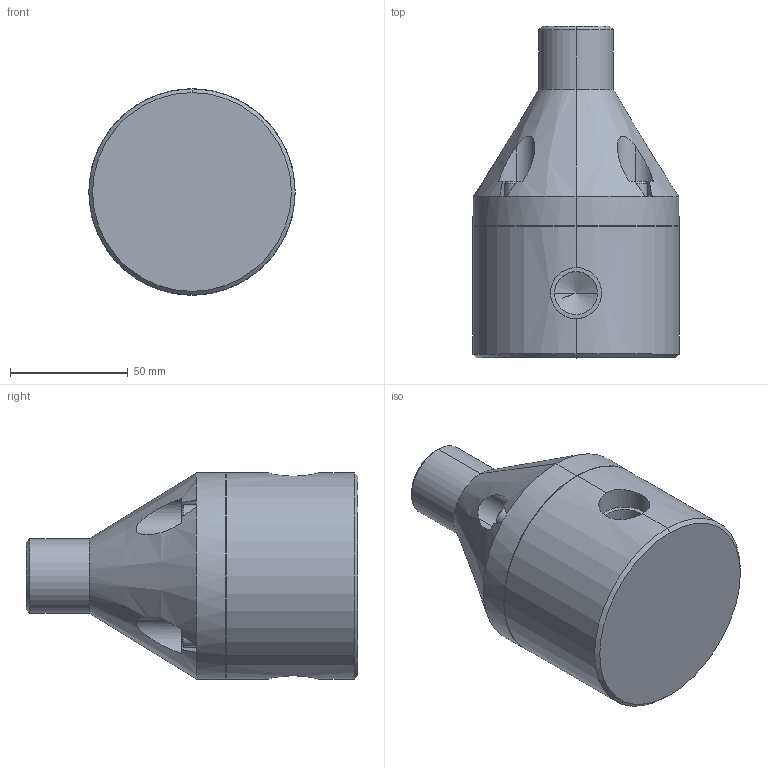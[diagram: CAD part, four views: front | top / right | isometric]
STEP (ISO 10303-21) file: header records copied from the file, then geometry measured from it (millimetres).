
FILE_DESCRIPTION (( 'STEP AP203' ), '1' );
FILE_NAME ('GBP0500-SOC.STEP', '2015-04-27T10:13:20', ( 'Dan Bernard' ), ( '' ), 'SwSTEP 2.0', 'SolidWorks 2008', '' );
FILE_SCHEMA (( 'CONFIG_CONTROL_DESIGN' ));
Length unit declared in the file: inch
Products named in the file (1): GBP0500-SOC
Bounding box: 87.63 x 140.97 x 87.63 mm (x, y, z)
Volume: 550989.7 mm3; surface area: 49361.1 mm2
Topology: 1 solids, 1 shells, 127 faces, 306 edges, 192 vertices
Faces by surface type: plane 71, cylinder 32, cone 22, torus 2
Entity records: 4124 total; most frequent: CARTESIAN_POINT 1065, DIRECTION 630, ORIENTED_EDGE 604, EDGE_CURVE 302, AXIS2_PLACEMENT_3D 222, VERTEX_POINT 192, VECTOR 186, LINE 186
